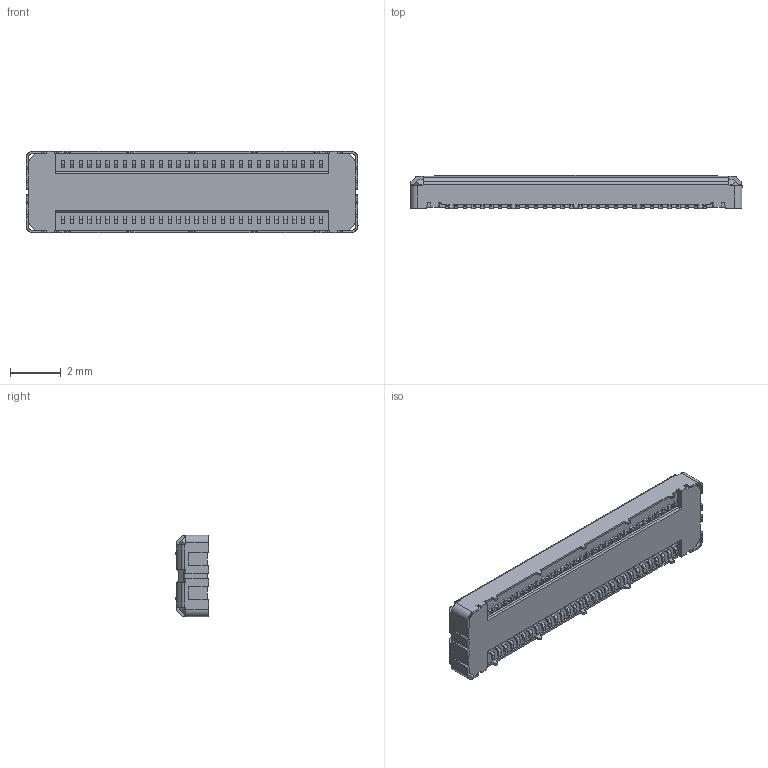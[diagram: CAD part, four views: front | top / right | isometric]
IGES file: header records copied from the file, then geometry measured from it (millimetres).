
Start section: SolidWorks IGES file using analytic representation for surfaces
Global section: file name: C:\3dwork\Baba\20240514 NOVA35-HDH 汎用70P図面\STEP&IGES\21004-060EC NOVASTACK 35-HDH RECEPTACLE ASSEMBLY STEP R5.IGS; native system: SolidWorks 2023; preprocessor: SolidWorks 2023; author: 83109; date: 240516.151314; units: millimetre
Bounding box: 13.05 x 1.3 x 3.2 mm (x, y, z)
Surface area: 172.9 mm2 (no closed solid volume)
Topology: 0 solids, 0 shells, 931 faces, 5924 edges, 5924 vertices
Faces by surface type: bspline 657, revolution 274
